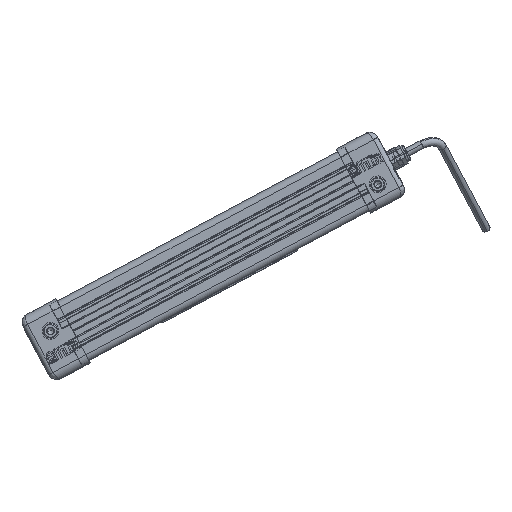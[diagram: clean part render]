
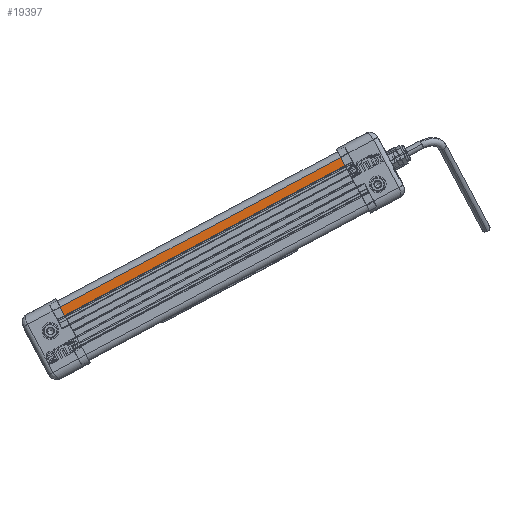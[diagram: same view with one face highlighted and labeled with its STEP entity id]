
A CAD part, front view. The second image highlights one B-rep face of the part: STEP entity #19397.
In plain terms, the highlighted planar face has unit normal (0, -1, 0) as drawn and (-1, 0, 0) by its records, which use the part's own axes.
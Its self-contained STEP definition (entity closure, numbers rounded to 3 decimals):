
#2037 = CARTESIAN_POINT ( 'NONE',  ( -9., 16., 199. ) ) ;
#2809 = LINE ( 'NONE', #11013, #17056 ) ;
#5895 = ORIENTED_EDGE ( 'NONE', *, *, #32500, .F. ) ;
#6380 = VECTOR ( 'NONE', #8021, 1000. ) ;
#6629 = DIRECTION ( 'NONE',  ( 0., -1., 0. ) ) ;
#8021 = DIRECTION ( 'NONE',  ( 0., 0., -1. ) ) ;
#10194 = DIRECTION ( 'NONE',  ( 0., 0., -1. ) ) ;
#10409 = DIRECTION ( 'NONE',  ( 1., 0., 0. ) ) ;
#10708 = FACE_OUTER_BOUND ( 'NONE', #55682, .T. ) ;
#11013 = CARTESIAN_POINT ( 'NONE',  ( -9., 16., 199. ) ) ;
#11600 = EDGE_CURVE ( 'NONE', #34967, #43614, #2809, .T. ) ;
#12818 = CARTESIAN_POINT ( 'NONE',  ( -9., 16., 199. ) ) ;
#12993 = CARTESIAN_POINT ( 'NONE',  ( -9., 10.5, 199. ) ) ;
#17056 = VECTOR ( 'NONE', #6629, 1000. ) ;
#17179 = ORIENTED_EDGE ( 'NONE', *, *, #11600, .F. ) ;
#19057 = VERTEX_POINT ( 'NONE', #25501 ) ;
#19397 = ADVANCED_FACE ( 'NONE', ( #10708 ), #49514, .F. ) ;
#23057 = EDGE_CURVE ( 'NONE', #34967, #52675, #23594, .T. ) ;
#23594 = LINE ( 'NONE', #2037, #42616 ) ;
#24948 = CARTESIAN_POINT ( 'NONE',  ( -9., 16., 0. ) ) ;
#25501 = CARTESIAN_POINT ( 'NONE',  ( -9., 10.5, 0. ) ) ;
#28172 = DIRECTION ( 'NONE',  ( 0., 1., 0. ) ) ;
#29494 = CARTESIAN_POINT ( 'NONE',  ( -9., 16., 0. ) ) ;
#29623 = DIRECTION ( 'NONE',  ( 0., -1., 0. ) ) ;
#32500 = EDGE_CURVE ( 'NONE', #43614, #19057, #37907, .T. ) ;
#34967 = VERTEX_POINT ( 'NONE', #12818 ) ;
#36367 = CARTESIAN_POINT ( 'NONE',  ( -9., 16., 199. ) ) ;
#36422 = ORIENTED_EDGE ( 'NONE', *, *, #23057, .T. ) ;
#37907 = LINE ( 'NONE', #12993, #6380 ) ;
#40720 = AXIS2_PLACEMENT_3D ( 'NONE', #36367, #10409, #28172 ) ;
#41362 = ORIENTED_EDGE ( 'NONE', *, *, #51174, .T. ) ;
#42616 = VECTOR ( 'NONE', #10194, 1000. ) ;
#43337 = LINE ( 'NONE', #24948, #50936 ) ;
#43614 = VERTEX_POINT ( 'NONE', #55041 ) ;
#49514 = PLANE ( 'NONE',  #40720 ) ;
#50936 = VECTOR ( 'NONE', #29623, 1000. ) ;
#51174 = EDGE_CURVE ( 'NONE', #52675, #19057, #43337, .T. ) ;
#52675 = VERTEX_POINT ( 'NONE', #29494 ) ;
#55041 = CARTESIAN_POINT ( 'NONE',  ( -9., 10.5, 199. ) ) ;
#55682 = EDGE_LOOP ( 'NONE', ( #41362, #5895, #17179, #36422 ) ) ;
